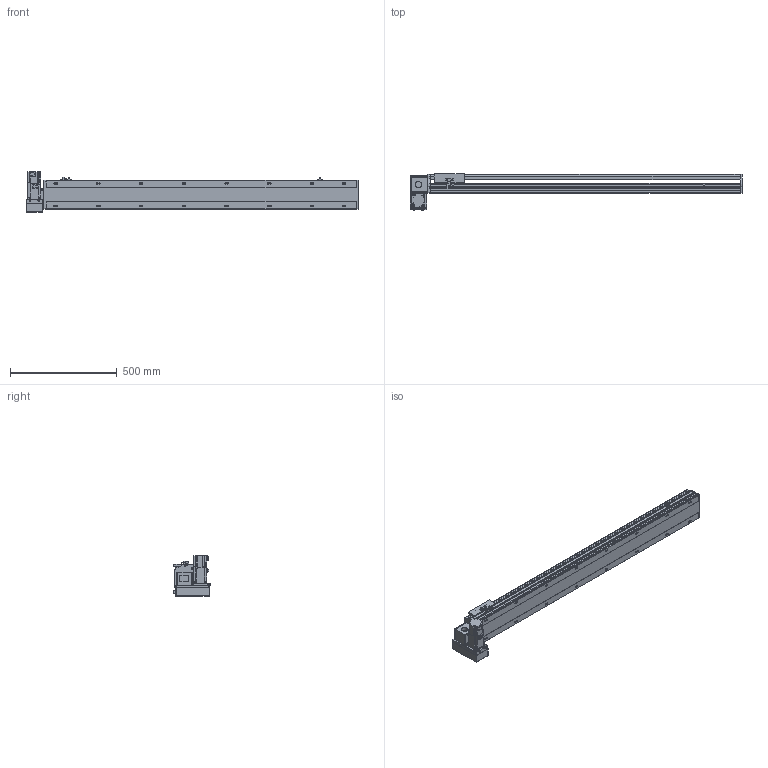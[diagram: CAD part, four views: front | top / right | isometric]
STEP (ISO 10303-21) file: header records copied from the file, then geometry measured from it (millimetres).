
FILE_DESCRIPTION( ( 'STEP AP214' ), '1' );
FILE_NAME( 'x:/temp/worker_6/temp/exporttempdir_5396_98_Hhd5c/format_0/PBS140S-P40-S1200-LD-T40-C1-N(0).stp', '2022-06-09T00:25:03', ( 'License CC BY-ND 4.0' ), ( 'CADENAS' ), ' ', 'PARTsolutions', ' ' );
FILE_SCHEMA( ( 'AUTOMOTIVE_DESIGN { 1 0 10303 214 1 1 1 1 }' ) );
Length unit declared in the file: millimetre
Products named in the file (7): PBS140S-P40-S1200-LD-T40-C1-N(0); _PBS140S-S1200()_body; _PBS140ST-LD_motors; _T40-p1; _PBS140S_sliser; _PBS140S_plant; _PBS140S_sensor
Assembly tree (8 placements, depth 2):
  PBS140S-P40-S1200-LD-T40-C1-N(0)
    _PBS140S-S1200()_body
    _PBS140ST-LD_motors
    _T40-p1
    _PBS140S_sliser
    _PBS140S_plant
    _PBS140S_sensor  x3
Bounding box: 1554 x 172.5 x 189.7 mm (x, y, z)
Volume: 7950649.4 mm3; surface area: 1367947.5 mm2
Topology: 8 solids, 8 shells, 1099 faces, 2911 edges, 1905 vertices
Faces by surface type: plane 702, cylinder 345, cone 42, sphere 8, torus 2
Full cylindrical faces by diameter (mm): 3.242 x4, 4 x2, 4.134 x4, 4.4 x8, 4.5 x2, 4.8 x4, 4.917 x24, 5.5 x7, 6 x2, 7 x18, 7.5 x8, 8 x12, 8.5 x4, 10.5 x16, 14 x1, 30 x2, 50 x2
Entity records: 40336 total; most frequent: CARTESIAN_POINT 6406, DIRECTION 5348, ORIENTED_EDGE 5062, EDGE_CURVE 2531, AXIS2_PLACEMENT_3D 1859, VERTEX_POINT 1753, LINE 1630, VECTOR 1630
